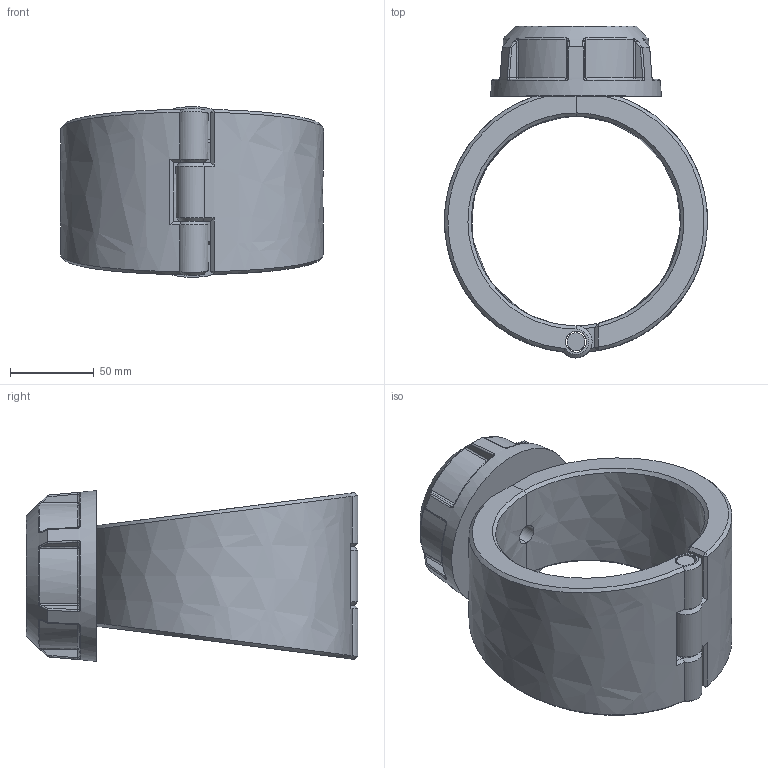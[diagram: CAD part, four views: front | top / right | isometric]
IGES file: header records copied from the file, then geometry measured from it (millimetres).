
Global section: file name: 163000125007; native system: Autodesk Inventor 2019; preprocessor: unknown; author: comp2; date: 20220203.115038; units: millimetre
Bounding box: 157 x 198 x 101.86 mm (x, y, z)
Volume: 794373.4 mm3; surface area: 123262 mm2
Topology: 4 solids, 4 shells, 203 faces, 486 edges, 293 vertices
Faces by surface type: bspline 203
